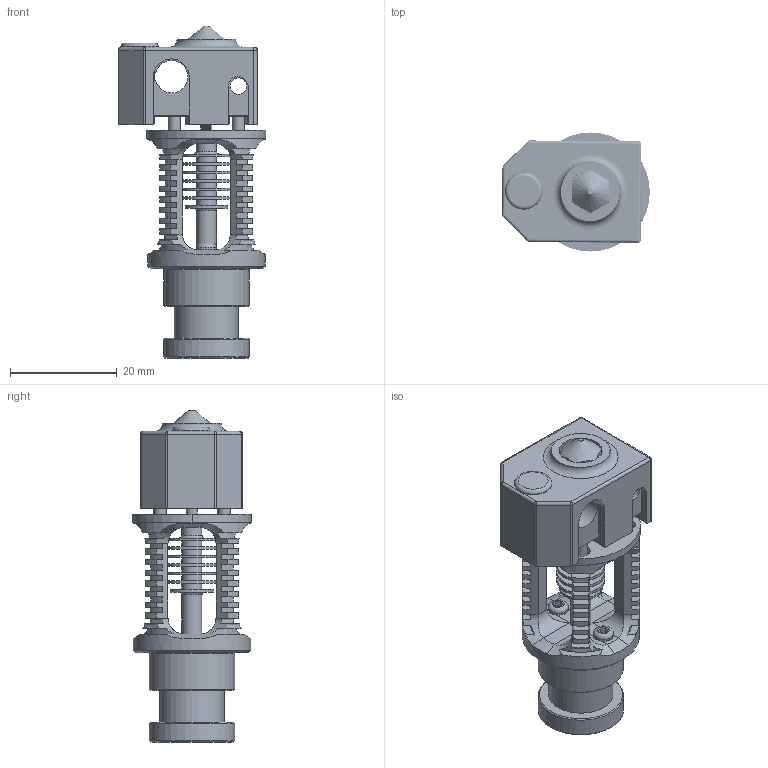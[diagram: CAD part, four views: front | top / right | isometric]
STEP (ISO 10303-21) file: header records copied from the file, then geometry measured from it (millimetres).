
FILE_DESCRIPTION(/* description */ (''),/* implementation_level */ '2;1');
FILE_NAME(/* name */ 'Dragon ST.stp',/* time_stamp */ '2021-01-03T11:27:43+08:00',/* author */ (''),/* organization */ (''),/* preprocessor_version */ 'ST-DEVELOPER v16',/* originating_system */ 'SIEMENS PLM Software NX 11.0',/* authorisation */ '');
FILE_SCHEMA (('AUTOMOTIVE_DESIGN { 1 0 10303 214 3 1 1 1 }'));
Products named in the file (1): Dragon ST
Bounding box: 27.69 x 22.3 x 62.2 mm (x, y, z)
Volume: 11625.7 mm3; surface area: 11852.4 mm2
Topology: 12 solids, 12 shells, 854 faces, 2165 edges, 1364 vertices
Faces by surface type: cylinder 371, plane 355, cone 44, bspline 36, sphere 20, torus 17, extrusion 11
Full cylindrical faces by diameter (mm): 1.5 x2, 1.8 x2, 2 x4, 2.1 x1, 2.3 x8, 2.5 x2, 2.6 x2, 2.9 x2, 3.1 x1, 3.7 x1, 3.8 x10, 4.85 x1, 5.8 x1, 7 x1, 8 x2, 9 x6, 12 x1, 16 x2, 22 x1
Entity records: 71321 total; most frequent: CARTESIAN_POINT 51555, ORIENTED_EDGE 4100, DIRECTION 3801, EDGE_CURVE 2050, AXIS2_PLACEMENT_3D 1427, VERTEX_POINT 1348, EDGE_LOOP 1014, VECTOR 947
